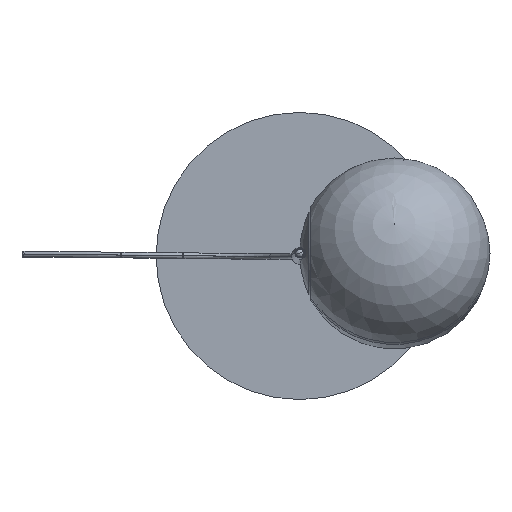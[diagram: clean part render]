
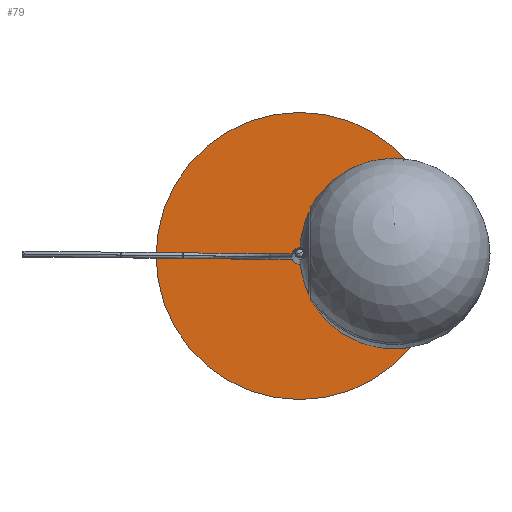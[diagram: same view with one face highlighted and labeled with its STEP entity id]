
A CAD part, top view. The second image highlights one B-rep face of the part: STEP entity #79.
In plain terms, the highlighted planar face has unit normal (0, 0, 1).
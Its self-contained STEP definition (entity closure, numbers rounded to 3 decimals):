
#55 = EDGE_CURVE ( 'NONE', #2919, #6440, #1574, .T. ) ;
#79 = ADVANCED_FACE ( 'NONE', ( #2836, #6500 ), #4450, .T. ) ;
#155 = VERTEX_POINT ( 'NONE', #6563 ) ;
#213 = CIRCLE ( 'NONE', #5925, 6.3 ) ;
#285 = EDGE_LOOP ( 'NONE', ( #6325, #4786 ) ) ;
#309 = DIRECTION ( 'NONE',  ( 1., 0., 0. ) ) ;
#406 = CARTESIAN_POINT ( 'NONE',  ( 0., 0., 3. ) ) ;
#492 = CARTESIAN_POINT ( 'NONE',  ( 150., 0., 3. ) ) ;
#997 = ORIENTED_EDGE ( 'NONE', *, *, #4694, .F. ) ;
#1456 = CIRCLE ( 'NONE', #5183, 6.3 ) ;
#1568 = DIRECTION ( 'NONE',  ( 1., 0., 0. ) ) ;
#1574 = CIRCLE ( 'NONE', #3007, 150. ) ;
#1790 = EDGE_CURVE ( 'NONE', #6440, #2919, #2688, .T. ) ;
#1835 = CARTESIAN_POINT ( 'NONE',  ( 0., 0., 3. ) ) ;
#2130 = DIRECTION ( 'NONE',  ( 0., 0., 1. ) ) ;
#2688 = CIRCLE ( 'NONE', #6185, 150. ) ;
#2756 = ORIENTED_EDGE ( 'NONE', *, *, #6684, .F. ) ;
#2836 = FACE_BOUND ( 'NONE', #3308, .T. ) ;
#2919 = VERTEX_POINT ( 'NONE', #492 ) ;
#2970 = CARTESIAN_POINT ( 'NONE',  ( 0., 0., 3. ) ) ;
#3007 = AXIS2_PLACEMENT_3D ( 'NONE', #2970, #5439, #6119 ) ;
#3019 = CARTESIAN_POINT ( 'NONE',  ( 0., 0., 3. ) ) ;
#3183 = CARTESIAN_POINT ( 'NONE',  ( 0., 0., 3. ) ) ;
#3308 = EDGE_LOOP ( 'NONE', ( #997, #2756 ) ) ;
#4198 = DIRECTION ( 'NONE',  ( 0., 0., 1. ) ) ;
#4435 = AXIS2_PLACEMENT_3D ( 'NONE', #1835, #5572, #4919 ) ;
#4450 = PLANE ( 'NONE',  #4435 ) ;
#4694 = EDGE_CURVE ( 'NONE', #5456, #155, #213, .T. ) ;
#4786 = ORIENTED_EDGE ( 'NONE', *, *, #55, .T. ) ;
#4919 = DIRECTION ( 'NONE',  ( 1., 0., 0. ) ) ;
#5183 = AXIS2_PLACEMENT_3D ( 'NONE', #406, #4198, #5768 ) ;
#5439 = DIRECTION ( 'NONE',  ( 0., 0., 1. ) ) ;
#5456 = VERTEX_POINT ( 'NONE', #5780 ) ;
#5515 = DIRECTION ( 'NONE',  ( 0., 0., 1. ) ) ;
#5572 = DIRECTION ( 'NONE',  ( 0., 0., 1. ) ) ;
#5768 = DIRECTION ( 'NONE',  ( 1., 0., 0. ) ) ;
#5780 = CARTESIAN_POINT ( 'NONE',  ( 6.3, 0., 3. ) ) ;
#5925 = AXIS2_PLACEMENT_3D ( 'NONE', #3019, #5515, #309 ) ;
#6031 = CARTESIAN_POINT ( 'NONE',  ( -150., 0., 3. ) ) ;
#6119 = DIRECTION ( 'NONE',  ( 1., 0., 0. ) ) ;
#6185 = AXIS2_PLACEMENT_3D ( 'NONE', #3183, #2130, #1568 ) ;
#6325 = ORIENTED_EDGE ( 'NONE', *, *, #1790, .T. ) ;
#6440 = VERTEX_POINT ( 'NONE', #6031 ) ;
#6500 = FACE_OUTER_BOUND ( 'NONE', #285, .T. ) ;
#6563 = CARTESIAN_POINT ( 'NONE',  ( -6.3, 0., 3. ) ) ;
#6684 = EDGE_CURVE ( 'NONE', #155, #5456, #1456, .T. ) ;
